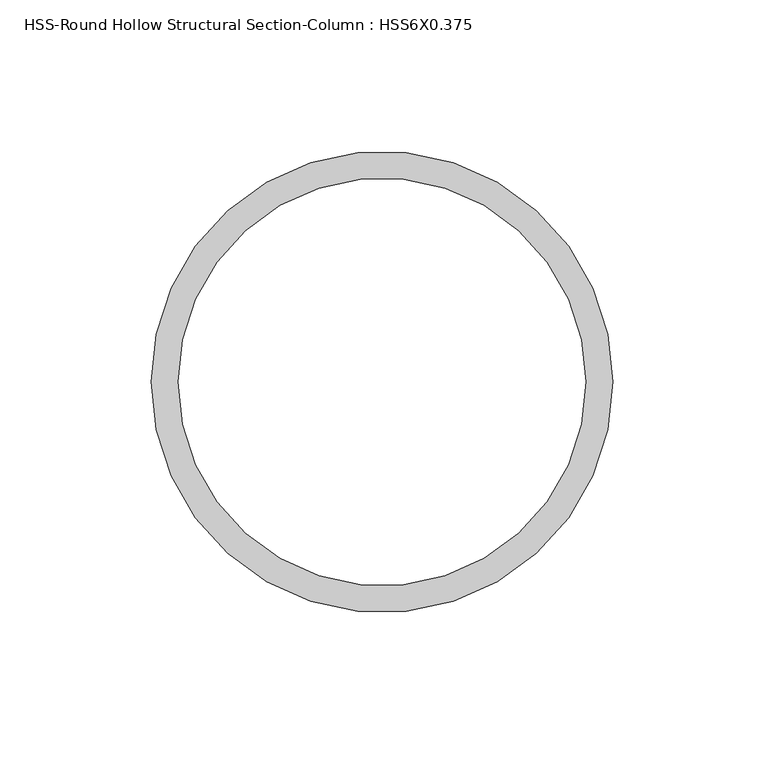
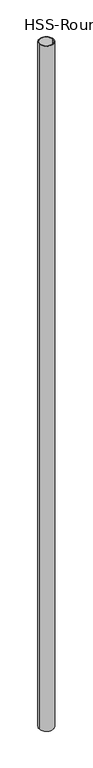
"""IFC4 building model written with IfcOpenShell, lengths in millimetres: column geometry, HSS-Round Hollow Structural Section-Column : HSS6X0.375."""

from ifc_helpers import new_model, si_unit, point, frame, origin, origin_2d, place, context, project, spatial, circle_curve, trimmed, segment, composite_curve, outline, extrude, source, transform, mapped, element, save


def hss_round_hollow_structural_section_column_hss6x0_375_dd265ae1(model_context):
    return source(origin(), model_context, "Body", "SweptSolid", [
        extrude(outline(composite_curve([segment(trimmed(circle_curve(origin_2d(), 76.2), [point((-76.2, 0.0))], [point((76.2, 0.0))], False, "CARTESIAN"), True, "CONTINUOUS"), segment(trimmed(circle_curve(origin_2d(), 76.2), [point((76.2, 0.0))], [point((-76.2, 0.0))], False, "CARTESIAN"), True, "CONTINUOUS")], self_intersect=False), holes=[composite_curve([segment(trimmed(circle_curve(origin_2d(), 67.3354), [point((-67.3354, 0.0))], [point((67.3354, 0.0))], True, "CARTESIAN"), True, "CONTINUOUS"), segment(trimmed(circle_curve(origin_2d(), 67.3354), [point((67.3354, 0.0))], [point((-67.3354, 0.0))], True, "CARTESIAN"), True, "CONTINUOUS")], self_intersect=False)]), frame((0.0, 0.0, 45110.4), z_axis=(0.0, 0.0, 1.0), x_axis=(1.0, 0.0, 0.0)), (0.0, 0.0, 1.0), 7624.6),
    ])


if __name__ == "__main__":
    model = new_model("IFC4")
    model_context = context("Model", 3, world=origin())
    ifc_project = project(units=[si_unit("LENGTHUNIT", "METRE", prefix="MILLI")], contexts=[model_context])
    site = spatial("IfcSite", under=ifc_project)
    building = spatial("IfcBuilding", under=site)
    placement = place(None, origin())
    hss_round_hollow_structural_section_column_hss6x0_375_shape = hss_round_hollow_structural_section_column_hss6x0_375_dd265ae1(model_context)
    element("IfcColumn", 1, ObjectType="HSS-Round Hollow Structural Section-Column : HSS6X0.375", at=placement, inside=building, context=model_context, shape_type="MappedRepresentation", body=[
        mapped(hss_round_hollow_structural_section_column_hss6x0_375_shape, transform((0.0, 0.0, 0.0), x_axis=(1.0, 0.0, 0.0), y_axis=(0.0, 1.0, 0.0), z_axis=(0.0, 0.0, 1.0))),
    ])
    save(model, "model.ifc")
